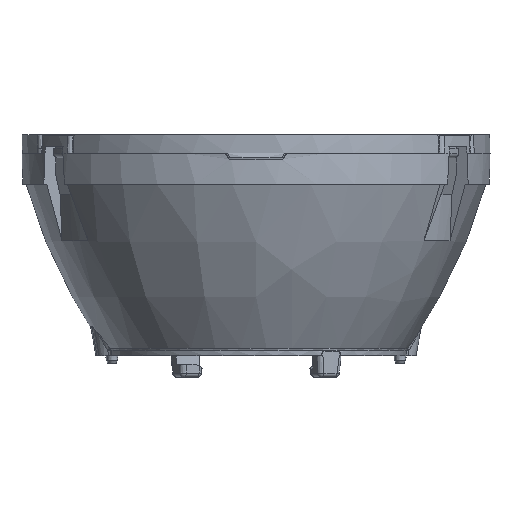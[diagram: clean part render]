
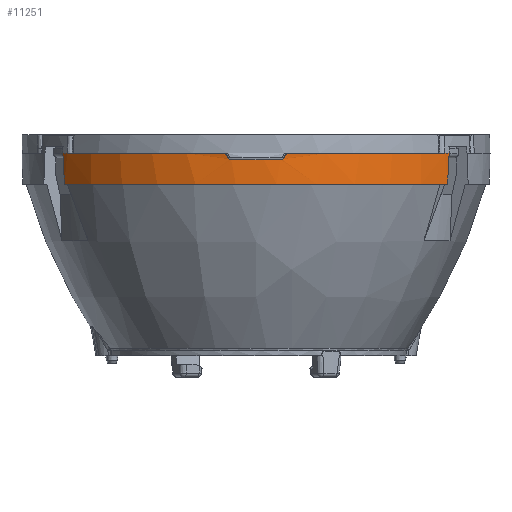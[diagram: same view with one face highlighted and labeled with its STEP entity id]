
A CAD part, left-side view. The second image highlights one B-rep face of the part: STEP entity #11251.
In plain terms, the highlighted cylindrical face has radius 25 mm (diameter 50 mm), a partial arc.
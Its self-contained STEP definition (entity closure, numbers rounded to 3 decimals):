
#187 = EDGE_CURVE ( 'NONE', #13504, #11937, #284, .T. ) ;
#227 = CARTESIAN_POINT ( 'NONE',  ( -24.812, -3.057, 24. ) ) ;
#284 =( BOUNDED_CURVE ( )  B_SPLINE_CURVE ( 3, ( #15197, #14054, #3154, #13979 ),
 .UNSPECIFIED., .F., .T. ) 
 B_SPLINE_CURVE_WITH_KNOTS ( ( 4, 4 ),
 ( 4.806, 4.818 ),
 .UNSPECIFIED. ) 
 CURVE ( )  GEOMETRIC_REPRESENTATION_ITEM ( )  RATIONAL_B_SPLINE_CURVE ( ( 1., 1., 1., 1. ) ) 
 REPRESENTATION_ITEM ( '' )  );
#544 = VERTEX_POINT ( 'NONE', #3122 ) ;
#677 = DIRECTION ( 'NONE',  ( 0., 0., -1. ) ) ;
#854 = B_SPLINE_CURVE_WITH_KNOTS ( 'NONE', 3,
 ( #17240, #13980, #12617, #9353, #4619, #227 ),
 .UNSPECIFIED., .F., .F.,
 ( 4, 2, 4 ),
 ( 0., 0.5, 1. ),
 .UNSPECIFIED. ) ;
#930 = CARTESIAN_POINT ( 'NONE',  ( 0., 0., 24.35 ) ) ;
#1018 = DIRECTION ( 'NONE',  ( 1., 0., 0. ) ) ;
#1215 = DIRECTION ( 'NONE',  ( 0., 0., -1. ) ) ;
#1399 = CARTESIAN_POINT ( 'NONE',  ( -14.357, 20.466, 21.05 ) ) ;
#1446 = EDGE_CURVE ( 'NONE', #544, #2986, #18830, .T. ) ;
#1915 = AXIS2_PLACEMENT_3D ( 'NONE', #14555, #17813, #8484 ) ;
#2320 = CARTESIAN_POINT ( 'NONE',  ( -14.357, -20.466, 21.05 ) ) ;
#2456 = ORIENTED_EDGE ( 'NONE', *, *, #187, .F. ) ;
#2593 = CARTESIAN_POINT ( 'NONE',  ( -24.855, 2.686, 23.65 ) ) ;
#2881 = CARTESIAN_POINT ( 'NONE',  ( -24.866, -2.58, 23.65 ) ) ;
#2986 = VERTEX_POINT ( 'NONE', #3713 ) ;
#3122 = CARTESIAN_POINT ( 'NONE',  ( -14.769, -20.171, 24.35 ) ) ;
#3154 = CARTESIAN_POINT ( 'NONE',  ( -14.278, -20.522, 22.149 ) ) ;
#3695 = ORIENTED_EDGE ( 'NONE', *, *, #14108, .F. ) ;
#3697 = EDGE_CURVE ( 'NONE', #11937, #4487, #8561, .T. ) ;
#3713 = CARTESIAN_POINT ( 'NONE',  ( -24.749, -3.534, 24.35 ) ) ;
#4164 = ORIENTED_EDGE ( 'NONE', *, *, #14371, .T. ) ;
#4295 = CARTESIAN_POINT ( 'NONE',  ( -24.844, -2.791, 23.684 ) ) ;
#4487 = VERTEX_POINT ( 'NONE', #13125 ) ;
#4531 = CARTESIAN_POINT ( 'NONE',  ( -24.749, 3.534, 24.35 ) ) ;
#4619 = CARTESIAN_POINT ( 'NONE',  ( -24.808, -3.089, 24.102 ) ) ;
#4637 = VERTEX_POINT ( 'NONE', #13796 ) ;
#4717 = CARTESIAN_POINT ( 'NONE',  ( -14.278, 20.522, 22.149 ) ) ;
#4889 = VERTEX_POINT ( 'NONE', #8686 ) ;
#5052 = ORIENTED_EDGE ( 'NONE', *, *, #13445, .T. ) ;
#5424 = CARTESIAN_POINT ( 'NONE',  ( -14.119, 20.632, 24.35 ) ) ;
#5585 = CARTESIAN_POINT ( 'NONE',  ( -24.764, 3.428, 24.35 ) ) ;
#5727 = CARTESIAN_POINT ( 'NONE',  ( -24.808, 3.089, 24.101 ) ) ;
#5848 = ORIENTED_EDGE ( 'NONE', *, *, #9319, .T. ) ;
#6056 = VERTEX_POINT ( 'NONE', #11875 ) ;
#6102 = B_SPLINE_CURVE_WITH_KNOTS ( 'NONE', 3,
 ( #14838, #5727, #11758, #19652, #5585, #10387 ),
 .UNSPECIFIED., .F., .F.,
 ( 4, 2, 4 ),
 ( 0., 0.5, 1. ),
 .UNSPECIFIED. ) ;
#6141 = B_SPLINE_CURVE_WITH_KNOTS ( 'NONE', 3,
 ( #19953, #2593, #16820, #15322, #11725, #20017 ),
 .UNSPECIFIED., .F., .F.,
 ( 4, 2, 4 ),
 ( 0., 0.5, 1. ),
 .UNSPECIFIED. ) ;
#6156 = EDGE_CURVE ( 'NONE', #10017, #6056, #19715, .T. ) ;
#6292 = ORIENTED_EDGE ( 'NONE', *, *, #15812, .T. ) ;
#6298 = CARTESIAN_POINT ( 'NONE',  ( -14.119, -20.632, 24.35 ) ) ;
#6401 = AXIS2_PLACEMENT_3D ( 'NONE', #19275, #10126, #7089 ) ;
#6588 = AXIS2_PLACEMENT_3D ( 'NONE', #15468, #17101, #18882 ) ;
#7089 = DIRECTION ( 'NONE',  ( 1., 0., 0. ) ) ;
#7573 = EDGE_CURVE ( 'NONE', #4487, #10017, #19675, .T. ) ;
#7822 = CARTESIAN_POINT ( 'NONE',  ( -14.119, 20.632, 24.35 ) ) ;
#7873 = ORIENTED_EDGE ( 'NONE', *, *, #11900, .T. ) ;
#8447 = CARTESIAN_POINT ( 'NONE',  ( 0., 0., 21.05 ) ) ;
#8466 = CIRCLE ( 'NONE', #15212, 25. ) ;
#8484 = DIRECTION ( 'NONE',  ( -0.5, 0.866, 0. ) ) ;
#8561 = CIRCLE ( 'NONE', #13560, 25. ) ;
#8642 = EDGE_LOOP ( 'NONE', ( #18397, #5052, #6292, #4164, #7873, #5848, #12564, #14843, #13657, #13057, #2456, #3695 ) ) ;
#8686 = CARTESIAN_POINT ( 'NONE',  ( -24.812, 3.057, 24. ) ) ;
#8769 = DIRECTION ( 'NONE',  ( 0., 0., -1. ) ) ;
#8943 = CARTESIAN_POINT ( 'NONE',  ( -24.816, -3.026, 23.899 ) ) ;
#9319 = EDGE_CURVE ( 'NONE', #4889, #13634, #6102, .T. ) ;
#9353 = CARTESIAN_POINT ( 'NONE',  ( -24.8, -3.154, 24.191 ) ) ;
#9703 = FACE_OUTER_BOUND ( 'NONE', #8642, .T. ) ;
#10017 = VERTEX_POINT ( 'NONE', #5424 ) ;
#10126 = DIRECTION ( 'NONE',  ( 0., 0., -1. ) ) ;
#10210 = CYLINDRICAL_SURFACE ( 'NONE', #6401, 25. ) ;
#10278 = CARTESIAN_POINT ( 'NONE',  ( -24.812, -3.057, 24. ) ) ;
#10387 = CARTESIAN_POINT ( 'NONE',  ( -24.749, 3.534, 24.35 ) ) ;
#10945 = CARTESIAN_POINT ( 'NONE',  ( -14.199, 20.577, 23.249 ) ) ;
#10960 = CIRCLE ( 'NONE', #6588, 25. ) ;
#11251 = ADVANCED_FACE ( 'NONE', ( #9703 ), #10210, .T. ) ;
#11677 = B_SPLINE_CURVE_WITH_KNOTS ( 'NONE', 3,
 ( #11688, #8943, #19711, #4295, #15092, #2881 ),
 .UNSPECIFIED., .F., .F.,
 ( 4, 2, 4 ),
 ( 0., 0.5, 1. ),
 .UNSPECIFIED. ) ;
#11686 = VERTEX_POINT ( 'NONE', #19325 ) ;
#11688 = CARTESIAN_POINT ( 'NONE',  ( -24.812, -3.057, 24. ) ) ;
#11725 = CARTESIAN_POINT ( 'NONE',  ( -24.816, 3.025, 23.898 ) ) ;
#11758 = CARTESIAN_POINT ( 'NONE',  ( -24.8, 3.154, 24.191 ) ) ;
#11875 = CARTESIAN_POINT ( 'NONE',  ( -14.769, 20.171, 24.35 ) ) ;
#11889 = DIRECTION ( 'NONE',  ( 0., 0., -1. ) ) ;
#11900 = EDGE_CURVE ( 'NONE', #11686, #4889, #6141, .T. ) ;
#11937 = VERTEX_POINT ( 'NONE', #2320 ) ;
#11949 = VERTEX_POINT ( 'NONE', #10278 ) ;
#12564 = ORIENTED_EDGE ( 'NONE', *, *, #18405, .T. ) ;
#12617 = CARTESIAN_POINT ( 'NONE',  ( -24.778, -3.325, 24.316 ) ) ;
#13057 = ORIENTED_EDGE ( 'NONE', *, *, #3697, .F. ) ;
#13125 = CARTESIAN_POINT ( 'NONE',  ( -14.357, 20.466, 21.05 ) ) ;
#13338 = CARTESIAN_POINT ( 'NONE',  ( 0., 0., 23.65 ) ) ;
#13445 = EDGE_CURVE ( 'NONE', #2986, #11949, #854, .T. ) ;
#13504 = VERTEX_POINT ( 'NONE', #6298 ) ;
#13560 = AXIS2_PLACEMENT_3D ( 'NONE', #8447, #677, #19208 ) ;
#13634 = VERTEX_POINT ( 'NONE', #4531 ) ;
#13657 = ORIENTED_EDGE ( 'NONE', *, *, #7573, .F. ) ;
#13796 = CARTESIAN_POINT ( 'NONE',  ( -24.866, -2.58, 23.65 ) ) ;
#13979 = CARTESIAN_POINT ( 'NONE',  ( -14.357, -20.466, 21.05 ) ) ;
#13980 = CARTESIAN_POINT ( 'NONE',  ( -24.764, -3.429, 24.35 ) ) ;
#14054 = CARTESIAN_POINT ( 'NONE',  ( -14.199, -20.577, 23.249 ) ) ;
#14108 = EDGE_CURVE ( 'NONE', #544, #13504, #10960, .T. ) ;
#14371 = EDGE_CURVE ( 'NONE', #4637, #11686, #16567, .T. ) ;
#14555 = CARTESIAN_POINT ( 'NONE',  ( 0., 0., 24.35 ) ) ;
#14838 = CARTESIAN_POINT ( 'NONE',  ( -24.812, 3.057, 24. ) ) ;
#14843 = ORIENTED_EDGE ( 'NONE', *, *, #6156, .F. ) ;
#15092 = CARTESIAN_POINT ( 'NONE',  ( -24.855, -2.687, 23.65 ) ) ;
#15197 = CARTESIAN_POINT ( 'NONE',  ( -14.119, -20.632, 24.35 ) ) ;
#15212 = AXIS2_PLACEMENT_3D ( 'NONE', #19521, #11889, #16444 ) ;
#15322 = CARTESIAN_POINT ( 'NONE',  ( -24.824, 2.961, 23.809 ) ) ;
#15468 = CARTESIAN_POINT ( 'NONE',  ( 0., 0., 24.35 ) ) ;
#15812 = EDGE_CURVE ( 'NONE', #11949, #4637, #11677, .T. ) ;
#16221 = AXIS2_PLACEMENT_3D ( 'NONE', #13338, #1215, #1018 ) ;
#16444 = DIRECTION ( 'NONE',  ( -1., 0., 0. ) ) ;
#16567 = CIRCLE ( 'NONE', #16221, 25. ) ;
#16820 = CARTESIAN_POINT ( 'NONE',  ( -24.844, 2.79, 23.684 ) ) ;
#17101 = DIRECTION ( 'NONE',  ( 0., 0., 1. ) ) ;
#17240 = CARTESIAN_POINT ( 'NONE',  ( -24.749, -3.534, 24.35 ) ) ;
#17813 = DIRECTION ( 'NONE',  ( 0., 0., 1. ) ) ;
#18397 = ORIENTED_EDGE ( 'NONE', *, *, #1446, .T. ) ;
#18405 = EDGE_CURVE ( 'NONE', #13634, #6056, #8466, .T. ) ;
#18830 = CIRCLE ( 'NONE', #19132, 25. ) ;
#18882 = DIRECTION ( 'NONE',  ( -0.5, -0.866, 0. ) ) ;
#19132 = AXIS2_PLACEMENT_3D ( 'NONE', #930, #8769, #19734 ) ;
#19208 = DIRECTION ( 'NONE',  ( -1., 0., 0. ) ) ;
#19275 = CARTESIAN_POINT ( 'NONE',  ( 0., 0., 0. ) ) ;
#19325 = CARTESIAN_POINT ( 'NONE',  ( -24.866, 2.58, 23.65 ) ) ;
#19521 = CARTESIAN_POINT ( 'NONE',  ( 0., 0., 24.35 ) ) ;
#19652 = CARTESIAN_POINT ( 'NONE',  ( -24.778, 3.324, 24.316 ) ) ;
#19675 =( BOUNDED_CURVE ( )  B_SPLINE_CURVE ( 3, ( #1399, #4717, #10945, #7822 ),
 .UNSPECIFIED., .F., .T. ) 
 B_SPLINE_CURVE_WITH_KNOTS ( ( 4, 4 ),
 ( 1.466, 1.477 ),
 .UNSPECIFIED. ) 
 CURVE ( )  GEOMETRIC_REPRESENTATION_ITEM ( )  RATIONAL_B_SPLINE_CURVE ( ( 1., 1., 1., 1. ) ) 
 REPRESENTATION_ITEM ( '' )  );
#19711 = CARTESIAN_POINT ( 'NONE',  ( -24.824, -2.961, 23.809 ) ) ;
#19715 = CIRCLE ( 'NONE', #1915, 25. ) ;
#19734 = DIRECTION ( 'NONE',  ( -1., 0., 0. ) ) ;
#19953 = CARTESIAN_POINT ( 'NONE',  ( -24.866, 2.58, 23.65 ) ) ;
#20017 = CARTESIAN_POINT ( 'NONE',  ( -24.812, 3.057, 24. ) ) ;
